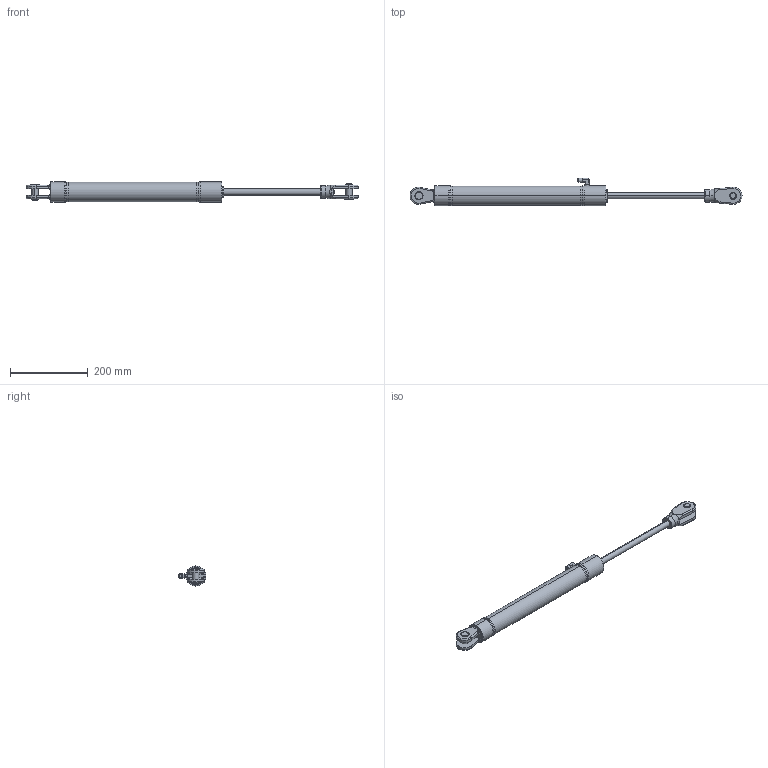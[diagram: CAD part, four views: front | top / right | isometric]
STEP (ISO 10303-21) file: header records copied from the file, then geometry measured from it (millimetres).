
FILE_DESCRIPTION (( 'STEP AP203' ), '1' );
FILE_NAME ('CL_040_S_0250.STEP', '2017-12-20T11:33:58', ( '' ), ( '' ), 'SwSTEP 2.0', 'SolidWorks 2015', '' );
FILE_SCHEMA (( 'CONFIG_CONTROL_DESIGN' ));
Length unit declared in the file: millimetre
Products named in the file (1): CL_040_S_0250
Bounding box: 855 x 71.56 x 52 mm (x, y, z)
Volume: 1189937.9 mm3; surface area: 144665.8 mm2
Topology: 14 solids, 14 shells, 317 faces, 707 edges, 431 vertices
Faces by surface type: cylinder 108, plane 107, cone 68, torus 34
Entity records: 9424 total; most frequent: CARTESIAN_POINT 2232, DIRECTION 1600, ORIENTED_EDGE 1414, EDGE_CURVE 707, AXIS2_PLACEMENT_3D 656, VERTEX_POINT 431, CIRCLE 338, EDGE_LOOP 334
